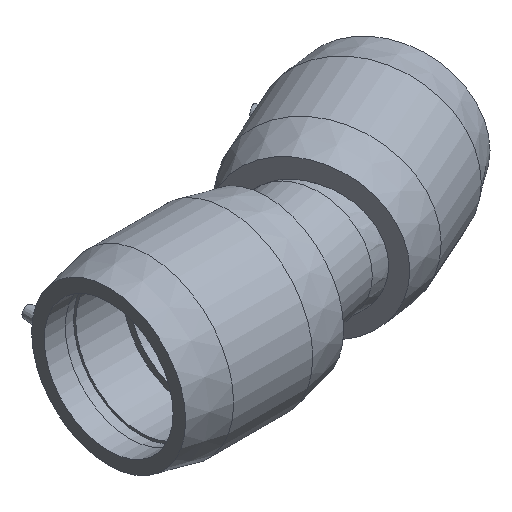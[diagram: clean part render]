
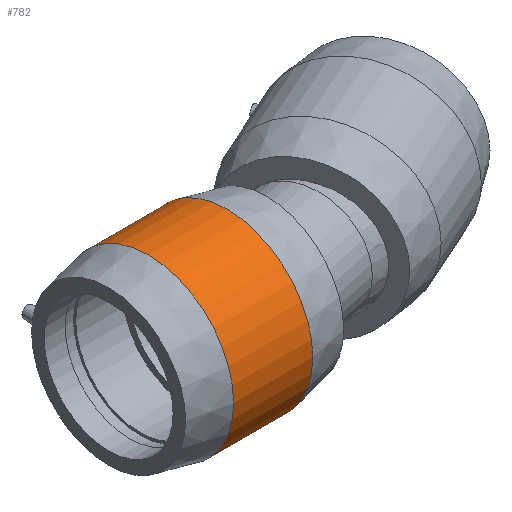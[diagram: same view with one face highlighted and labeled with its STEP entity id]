
A CAD part, isometric view. The second image highlights one B-rep face of the part: STEP entity #782.
In plain terms, the highlighted cylindrical face has radius 111.506 mm (diameter 223.012 mm), a full revolution.
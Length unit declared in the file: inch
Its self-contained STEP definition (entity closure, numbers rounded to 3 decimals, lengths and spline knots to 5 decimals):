
#54=LINE('',#1620,#82);
#82=VECTOR('',#1054,4.39);
#108=CYLINDRICAL_SURFACE('',#875,4.39);
#158=FACE_OUTER_BOUND('',#214,.T.);
#214=EDGE_LOOP('',(#608,#609,#610,#611,#612,#613));
#298=CIRCLE('',#876,4.39);
#299=CIRCLE('',#877,4.39);
#300=CIRCLE('',#878,4.39);
#301=CIRCLE('',#879,4.39);
#375=VERTEX_POINT('',#1615);
#376=VERTEX_POINT('',#1616);
#377=VERTEX_POINT('',#1619);
#378=VERTEX_POINT('',#1621);
#467=EDGE_CURVE('',#375,#376,#298,.T.);
#468=EDGE_CURVE('',#376,#375,#299,.T.);
#469=EDGE_CURVE('',#376,#377,#54,.T.);
#470=EDGE_CURVE('',#377,#378,#300,.T.);
#471=EDGE_CURVE('',#378,#377,#301,.T.);
#608=ORIENTED_EDGE('',*,*,#467,.F.);
#609=ORIENTED_EDGE('',*,*,#468,.F.);
#610=ORIENTED_EDGE('',*,*,#469,.T.);
#611=ORIENTED_EDGE('',*,*,#470,.T.);
#612=ORIENTED_EDGE('',*,*,#471,.T.);
#613=ORIENTED_EDGE('',*,*,#469,.F.);
#782=ADVANCED_FACE('',(#158),#108,.T.);
#875=AXIS2_PLACEMENT_3D('',#1614,#1048,#1049);
#876=AXIS2_PLACEMENT_3D('',#1617,#1050,#1051);
#877=AXIS2_PLACEMENT_3D('',#1618,#1052,#1053);
#878=AXIS2_PLACEMENT_3D('',#1622,#1055,#1056);
#879=AXIS2_PLACEMENT_3D('',#1623,#1057,#1058);
#1048=DIRECTION('center_axis',(1.,0.,0.));
#1049=DIRECTION('ref_axis',(0.,1.,0.));
#1050=DIRECTION('center_axis',(1.,0.,0.));
#1051=DIRECTION('ref_axis',(0.,0.,-1.));
#1052=DIRECTION('center_axis',(1.,0.,0.));
#1053=DIRECTION('ref_axis',(0.,0.,-1.));
#1054=DIRECTION('',(-1.,0.,0.));
#1055=DIRECTION('center_axis',(1.,0.,0.));
#1056=DIRECTION('ref_axis',(0.,0.,-1.));
#1057=DIRECTION('center_axis',(1.,0.,0.));
#1058=DIRECTION('ref_axis',(0.,0.,-1.));
#1614=CARTESIAN_POINT('Origin',(0.,0.,0.));
#1615=CARTESIAN_POINT('',(2.029,4.39,0.));
#1616=CARTESIAN_POINT('',(2.029,-4.39,0.));
#1617=CARTESIAN_POINT('Origin',(2.029,0.,0.));
#1618=CARTESIAN_POINT('Origin',(2.029,0.,0.));
#1619=CARTESIAN_POINT('',(-2.029,-4.39,0.));
#1620=CARTESIAN_POINT('',(0.,-4.39,0.));
#1621=CARTESIAN_POINT('',(-2.029,4.39,0.));
#1622=CARTESIAN_POINT('Origin',(-2.029,0.,0.));
#1623=CARTESIAN_POINT('Origin',(-2.029,0.,0.));
